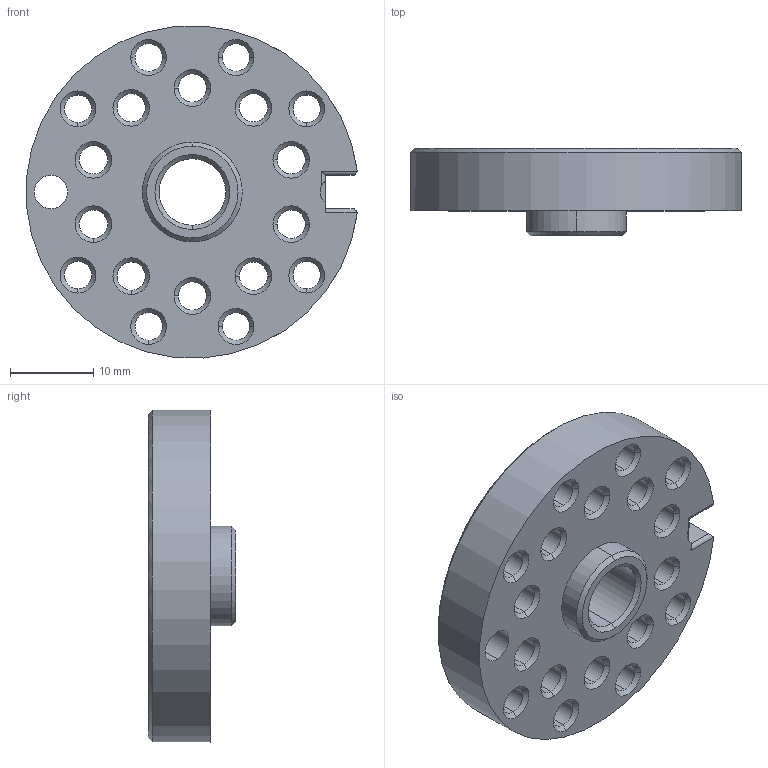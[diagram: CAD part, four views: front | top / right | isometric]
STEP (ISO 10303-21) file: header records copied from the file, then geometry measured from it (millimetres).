
FILE_DESCRIPTION (( 'STEP AP203' ), '1' );
FILE_NAME ('U6-0303 楊擘攫.STEP', '2022-04-29T09:51:52', ( 'iCura' ), ( 'ICOS' ), 'SwSTEP 2.0', 'SolidWorks 2018', '' );
FILE_SCHEMA (( 'CONFIG_CONTROL_DESIGN' ));
Length unit declared in the file: millimetre
Products named in the file (1): U6-0303 楊擘攫
Bounding box: 39.77 x 10.5 x 39.91 mm (x, y, z)
Volume: 6508.8 mm3; surface area: 5123.4 mm2
Topology: 1 solids, 1 shells, 175 faces, 424 edges, 262 vertices
Faces by surface type: cone 83, cylinder 72, plane 20
Entity records: 5333 total; most frequent: DIRECTION 1003, CARTESIAN_POINT 913, ORIENTED_EDGE 846, EDGE_CURVE 423, AXIS2_PLACEMENT_3D 418, VERTEX_POINT 262, CIRCLE 242, EDGE_LOOP 227
